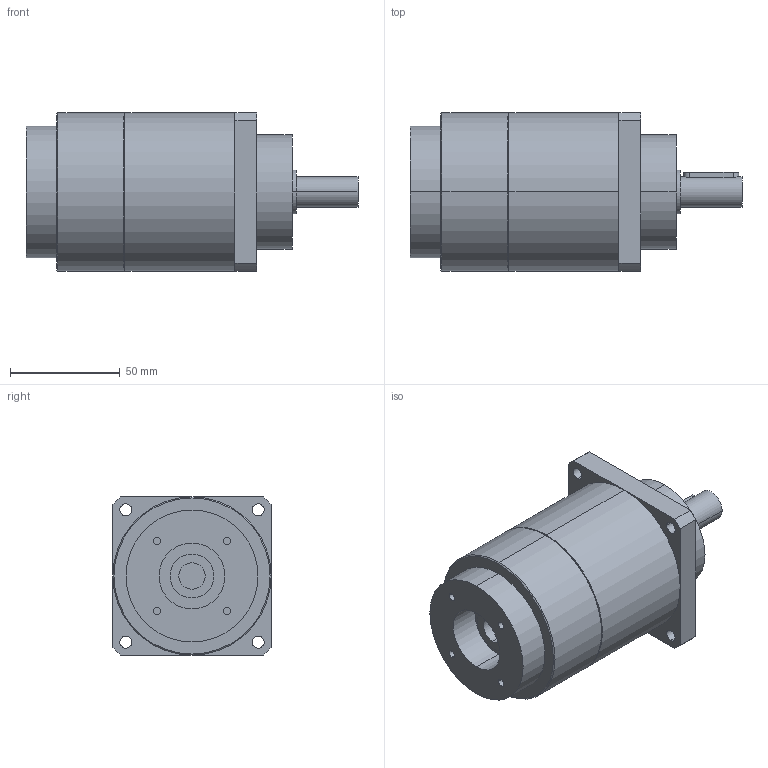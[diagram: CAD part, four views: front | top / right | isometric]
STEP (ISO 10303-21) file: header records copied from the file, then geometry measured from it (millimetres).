
FILE_DESCRIPTION(('CoCreate Modeling STEP Export'),'2;1');
FILE_NAME('GPT75_ig-9-12-16-20-25-28-35-40-50-70-100_14_B5T_12_P16.stp','2014-08-27T13:36:46',(''),(''),'CoCreate Modeling STEP processor for AP214 (Solid Model)','CoCreate Modeling 16.00C 25-Feb-2009 (C) Parametric Technology GmbH','');
FILE_SCHEMA(('AUTOMOTIVE_DESIGN { 1 0 10303 214 1 1 1 1 }'));
Length unit declared in the file: millimetre
Products named in the file (2): GPT75_ig-9-12-16-20-25-28-35-40-50-70-100_14_B5T_12_P16
Assembly tree (1 placements, depth 2):
  GPT75_ig-9-12-16-20-25-28-35-40-50-70-100_14_B5T_12_P16
    GPT75_ig-9-12-16-20-25-28-35-40-50-70-100_14_B5T_12_P16
Bounding box: 151 x 72 x 72 mm (x, y, z)
Volume: 445957.4 mm3; surface area: 42323.9 mm2
Topology: 1 solids, 1 shells, 72 faces, 170 edges, 113 vertices
Faces by surface type: cylinder 42, plane 26, cone 4
Entity records: 2201 total; most frequent: CARTESIAN_POINT 669, ORIENTED_EDGE 340, DIRECTION 268, EDGE_CURVE 170, VERTEX_POINT 113, AXIS2_PLACEMENT_3D 100, EDGE_LOOP 93, FACE_OUTER_BOUND 72
